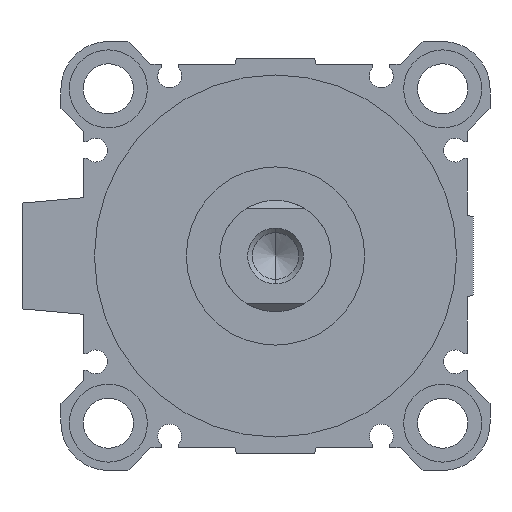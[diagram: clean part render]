
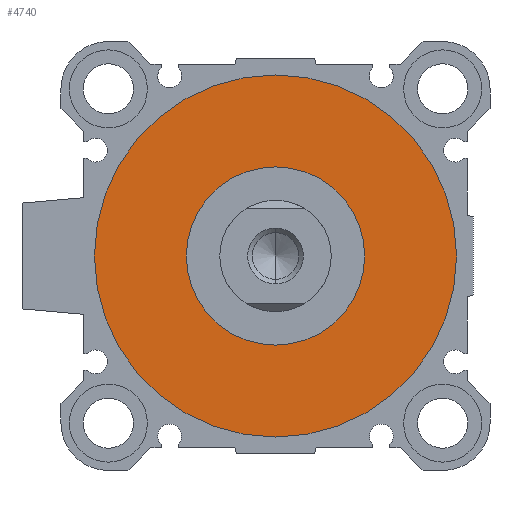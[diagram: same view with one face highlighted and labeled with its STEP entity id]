
A CAD part, left-side view. The second image highlights one B-rep face of the part: STEP entity #4740.
In plain terms, the highlighted planar face has unit normal (-1, 0, 0).
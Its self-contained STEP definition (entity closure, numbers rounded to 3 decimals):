
#328 = AXIS2_PLACEMENT_3D ( 'NONE', #2743, #639, #3656 ) ;
#393 = CIRCLE ( 'NONE', #4155, 32.5 ) ;
#601 = EDGE_CURVE ( 'NONE', #987, #1442, #3306, .T. ) ;
#639 = DIRECTION ( 'NONE',  ( 1., 0., 0. ) ) ;
#987 = VERTEX_POINT ( 'NONE', #2143 ) ;
#993 = AXIS2_PLACEMENT_3D ( 'NONE', #4486, #3660, #1939 ) ;
#1065 = DIRECTION ( 'NONE',  ( 1., 0., 0. ) ) ;
#1282 = EDGE_CURVE ( 'NONE', #1442, #987, #1968, .T. ) ;
#1402 = ORIENTED_EDGE ( 'NONE', *, *, #601, .T. ) ;
#1442 = VERTEX_POINT ( 'NONE', #3730 ) ;
#1464 = VERTEX_POINT ( 'NONE', #1756 ) ;
#1488 = PLANE ( 'NONE',  #328 ) ;
#1756 = CARTESIAN_POINT ( 'NONE',  ( 4., 0., -32.5 ) ) ;
#1939 = DIRECTION ( 'NONE',  ( 0., 0., -1. ) ) ;
#1968 = CIRCLE ( 'NONE', #993, 16. ) ;
#1971 = EDGE_CURVE ( 'NONE', #3989, #1464, #393, .T. ) ;
#1975 = DIRECTION ( 'NONE',  ( 0., 0., -1. ) ) ;
#2068 = AXIS2_PLACEMENT_3D ( 'NONE', #4331, #1065, #2734 ) ;
#2143 = CARTESIAN_POINT ( 'NONE',  ( 4., 0., -16. ) ) ;
#2258 = EDGE_LOOP ( 'NONE', ( #2267, #1402 ) ) ;
#2267 = ORIENTED_EDGE ( 'NONE', *, *, #1282, .T. ) ;
#2601 = ORIENTED_EDGE ( 'NONE', *, *, #1971, .F. ) ;
#2710 = CARTESIAN_POINT ( 'NONE',  ( 4., 0., 0. ) ) ;
#2734 = DIRECTION ( 'NONE',  ( 0., 0., -1. ) ) ;
#2743 = CARTESIAN_POINT ( 'NONE',  ( 4., 0., 0. ) ) ;
#3195 = CARTESIAN_POINT ( 'NONE',  ( 4., 0., 32.5 ) ) ;
#3306 = CIRCLE ( 'NONE', #5171, 16. ) ;
#3326 = ORIENTED_EDGE ( 'NONE', *, *, #3469, .F. ) ;
#3469 = EDGE_CURVE ( 'NONE', #1464, #3989, #5241, .T. ) ;
#3586 = DIRECTION ( 'NONE',  ( 1., 0., 0. ) ) ;
#3620 = EDGE_LOOP ( 'NONE', ( #2601, #3326 ) ) ;
#3656 = DIRECTION ( 'NONE',  ( 0., 1., 0. ) ) ;
#3660 = DIRECTION ( 'NONE',  ( 1., 0., 0. ) ) ;
#3730 = CARTESIAN_POINT ( 'NONE',  ( 4., 0., 16. ) ) ;
#3989 = VERTEX_POINT ( 'NONE', #3195 ) ;
#4155 = AXIS2_PLACEMENT_3D ( 'NONE', #4469, #3586, #1975 ) ;
#4331 = CARTESIAN_POINT ( 'NONE',  ( 4., 0., 0. ) ) ;
#4469 = CARTESIAN_POINT ( 'NONE',  ( 4., 0., 0. ) ) ;
#4486 = CARTESIAN_POINT ( 'NONE',  ( 4., 0., 0. ) ) ;
#4740 = ADVANCED_FACE ( 'NONE', ( #4837, #5255 ), #1488, .F. ) ;
#4801 = DIRECTION ( 'NONE',  ( 0., 0., -1. ) ) ;
#4837 = FACE_OUTER_BOUND ( 'NONE', #3620, .T. ) ;
#5171 = AXIS2_PLACEMENT_3D ( 'NONE', #2710, #5218, #4801 ) ;
#5218 = DIRECTION ( 'NONE',  ( 1., 0., 0. ) ) ;
#5241 = CIRCLE ( 'NONE', #2068, 32.5 ) ;
#5255 = FACE_BOUND ( 'NONE', #2258, .T. ) ;
